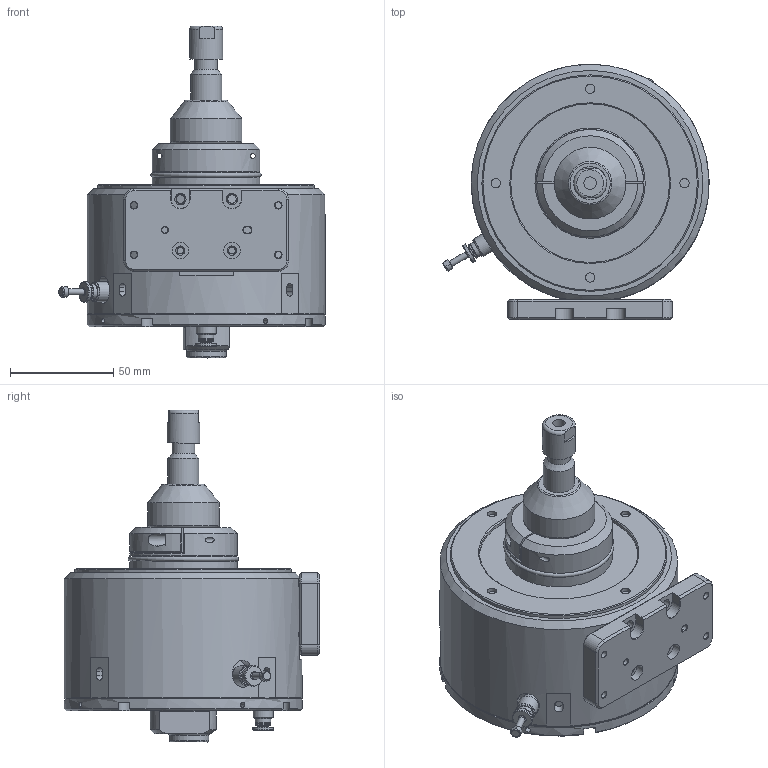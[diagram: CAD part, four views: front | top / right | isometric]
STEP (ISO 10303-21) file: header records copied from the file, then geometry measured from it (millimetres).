
FILE_DESCRIPTION(/* description */ (''),/* implementation_level */ '2;1');
FILE_NAME(/* name */ '\\Ds713\02.研發專案\T_機構研發\3_T3000系列_浮動工具\RC300_(\X2\53415B578EF8627F\X0\)\4.RC301_CAD\0. 簡化CAD圖\RC301.stp',/* time_stamp */ '2020-03-25T13:37:21+08:00',/* author */ ('PC-acer'),/* organization */ (''),/* preprocessor_version */ 'ST-DEVELOPER v15.2',/* originating_system */ 'Autodesk Inventor 2014',/* authorisation */ '');
FILE_SCHEMA (('AUTOMOTIVE_DESIGN { 1 0 10303 214 3 1 1 }'));
Length unit declared in the file: millimetre
Products named in the file (1): RC301-000-000-B_Cross_Assy_Substitute_1
Bounding box: 129.11 x 123.9 x 161.03 mm (x, y, z)
Volume: 799439.8 mm3; surface area: 74959.1 mm2
Topology: 2 solids, 3 shells, 365 faces, 879 edges, 560 vertices
Faces by surface type: plane 164, cylinder 117, cone 72, torus 11, bspline 1
Full cylindrical faces by diameter (mm): 2.459 x6, 3 x2, 3.2 x2, 3.242 x17, 4 x3, 4.134 x2, 4.5 x10, 5.4 x2, 5.5 x2, 6 x1, 7 x1, 7.5 x4, 7.8 x2, 8 x2, 9.7 x2, 9.9 x2, 11 x3, 15.103 x1, 16 x1, 19 x1, 32 x2, 32.2 x1, 34.8 x1, 50 x2, 51.4 x1, 52.15 x2, 77 x1, 105 x1, 115.4 x2
Entity records: 10621 total; most frequent: CARTESIAN_POINT 2603, DIRECTION 1626, ORIENTED_EDGE 1346, AXIS2_PLACEMENT_3D 678, EDGE_CURVE 672, EDGE_LOOP 584, VERTEX_POINT 490, ADVANCED_FACE 365
